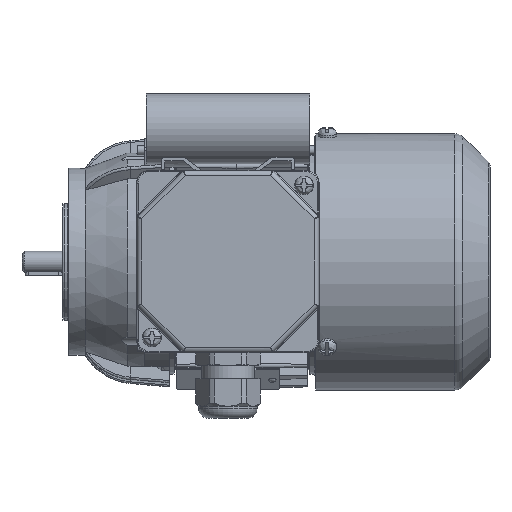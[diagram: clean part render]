
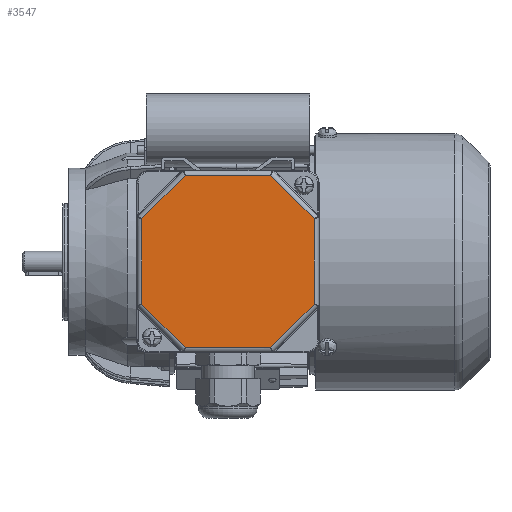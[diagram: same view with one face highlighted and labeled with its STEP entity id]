
A CAD part, top view. The second image highlights one B-rep face of the part: STEP entity #3547.
In plain terms, the highlighted planar face has unit normal (0, 0, 1).
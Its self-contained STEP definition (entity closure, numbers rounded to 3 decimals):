
#3547 = ADVANCED_FACE( '', ( #7698 ), #7699, .T. );
#7698 = FACE_OUTER_BOUND( '', #16073, .T. );
#7699 = PLANE( '', #16074 );
#16073 = EDGE_LOOP( '', ( #27995, #27996, #27997, #27998, #27999, #28000, #28001, #28002 ) );
#16074 = AXIS2_PLACEMENT_3D( '', #28003, #28004, #28005 );
#27995 = ORIENTED_EDGE( '', *, *, #39813, .T. );
#27996 = ORIENTED_EDGE( '', *, *, #38630, .T. );
#27997 = ORIENTED_EDGE( '', *, *, #39814, .T. );
#27998 = ORIENTED_EDGE( '', *, *, #39815, .T. );
#27999 = ORIENTED_EDGE( '', *, *, #37970, .T. );
#28000 = ORIENTED_EDGE( '', *, *, #39816, .T. );
#28001 = ORIENTED_EDGE( '', *, *, #39817, .T. );
#28002 = ORIENTED_EDGE( '', *, *, #39412, .T. );
#28003 = CARTESIAN_POINT( '', ( -39., 39., 12. ) );
#28004 = DIRECTION( '', ( 0., 0., 1. ) );
#28005 = DIRECTION( '', ( 1., 0., 0. ) );
#37970 = EDGE_CURVE( '', #45546, #44512, #45547, .F. );
#38630 = EDGE_CURVE( '', #46623, #46624, #46625, .T. );
#39412 = EDGE_CURVE( '', #47802, #47800, #47803, .T. );
#39813 = EDGE_CURVE( '', #47800, #46623, #48378, .F. );
#39814 = EDGE_CURVE( '', #46624, #48379, #48380, .F. );
#39815 = EDGE_CURVE( '', #48379, #45546, #48381, .T. );
#39816 = EDGE_CURVE( '', #44512, #46172, #48382, .T. );
#39817 = EDGE_CURVE( '', #46172, #47802, #48383, .F. );
#44512 = VERTEX_POINT( '', #54497 );
#45546 = VERTEX_POINT( '', #56006 );
#45547 = LINE( '', #56007, #56008 );
#46172 = VERTEX_POINT( '', #57195 );
#46623 = VERTEX_POINT( '', #58187 );
#46624 = VERTEX_POINT( '', #58188 );
#46625 = LINE( '', #58189, #58190 );
#47800 = VERTEX_POINT( '', #60961 );
#47802 = VERTEX_POINT( '', #60963 );
#47803 = LINE( '', #60964, #60965 );
#48378 = LINE( '', #62064, #62065 );
#48379 = VERTEX_POINT( '', #62066 );
#48380 = LINE( '', #62067, #62068 );
#48381 = LINE( '', #62069, #62070 );
#48382 = LINE( '', #62071, #62072 );
#48383 = LINE( '', #62073, #62074 );
#54497 = CARTESIAN_POINT( '', ( -36.825, -18.255, 12. ) );
#56006 = CARTESIAN_POINT( '', ( -36.825, 18.255, 12. ) );
#56007 = CARTESIAN_POINT( '', ( -36.825, -19.069, 12. ) );
#56008 = VECTOR( '', #70321, 1000. );
#57195 = CARTESIAN_POINT( '', ( -18.255, -36.825, 12. ) );
#58187 = CARTESIAN_POINT( '', ( 36.825, 18.255, 12. ) );
#58188 = CARTESIAN_POINT( '', ( 18.255, 36.825, 12. ) );
#58189 = CARTESIAN_POINT( '', ( 17.679, 37.401, 12. ) );
#58190 = VECTOR( '', #71152, 1000. );
#60961 = CARTESIAN_POINT( '', ( 36.825, -18.255, 12. ) );
#60963 = CARTESIAN_POINT( '', ( 18.255, -36.825, 12. ) );
#60964 = CARTESIAN_POINT( '', ( 37.401, -17.679, 12. ) );
#60965 = VECTOR( '', #72027, 1000. );
#62064 = CARTESIAN_POINT( '', ( 36.825, 19.069, 12. ) );
#62065 = VECTOR( '', #72471, 1000. );
#62066 = CARTESIAN_POINT( '', ( -18.255, 36.825, 12. ) );
#62067 = CARTESIAN_POINT( '', ( -19.069, 36.825, 12. ) );
#62068 = VECTOR( '', #72472, 1000. );
#62069 = CARTESIAN_POINT( '', ( -37.401, 17.679, 12. ) );
#62070 = VECTOR( '', #72473, 1000. );
#62071 = CARTESIAN_POINT( '', ( -17.679, -37.401, 12. ) );
#62072 = VECTOR( '', #72474, 1000. );
#62073 = CARTESIAN_POINT( '', ( 19.069, -36.825, 12. ) );
#62074 = VECTOR( '', #72475, 1000. );
#70321 = DIRECTION( '', ( 0., 1., 0. ) );
#71152 = DIRECTION( '', ( -0.707, 0.707, 0. ) );
#72027 = DIRECTION( '', ( 0.707, 0.707, 0. ) );
#72471 = DIRECTION( '', ( 0., -1., 0. ) );
#72472 = DIRECTION( '', ( 1., 0., 0. ) );
#72473 = DIRECTION( '', ( -0.707, -0.707, 0. ) );
#72474 = DIRECTION( '', ( 0.707, -0.707, 0. ) );
#72475 = DIRECTION( '', ( -1., 0., 0. ) );
